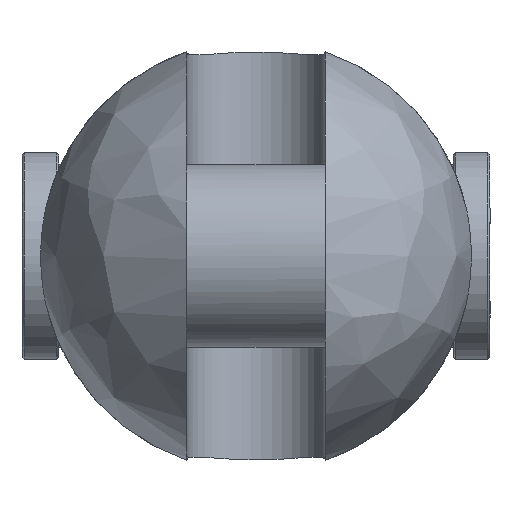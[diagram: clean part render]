
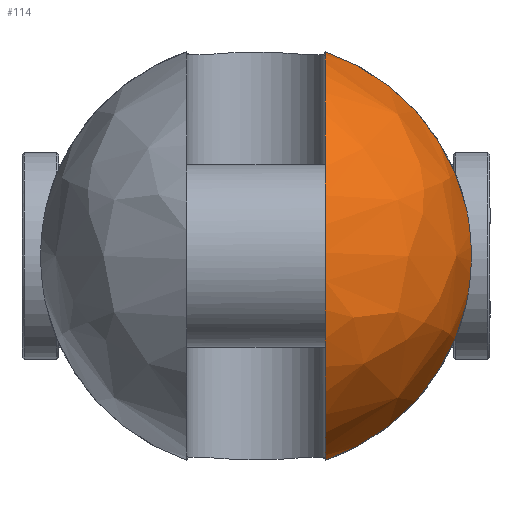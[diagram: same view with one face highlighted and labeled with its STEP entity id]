
A CAD part, left-side view. The second image highlights one B-rep face of the part: STEP entity #114.
In plain terms, the highlighted free-form (B-spline) face has degree [2, 2] with [9, 5] control points.
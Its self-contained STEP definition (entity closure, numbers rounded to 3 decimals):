
#114=ADVANCED_FACE('',(#202),#1535,.T.);
#202=FACE_OUTER_BOUND('',#302,.T.);
#302=EDGE_LOOP('',(#746,#747,#748,#749));
#746=ORIENTED_EDGE('',*,*,#1004,.T.);
#747=ORIENTED_EDGE('',*,*,#1001,.F.);
#748=ORIENTED_EDGE('',*,*,#1021,.T.);
#749=ORIENTED_EDGE('',*,*,#993,.F.);
#993=EDGE_CURVE('',#1425,#1426,#1256,.T.);
#1001=EDGE_CURVE('',#1433,#1434,#1257,.T.);
#1004=EDGE_CURVE('',#1425,#1434,#1259,.T.);
#1021=EDGE_CURVE('',#1433,#1426,#1130,.T.);
#1130=B_SPLINE_CURVE_WITH_KNOTS('',3,(#3652,#3653,#3654,#3655,#3656,#3657,
#3658,#3659,#3660,#3661,#3662,#3663,#3664,#3665),.UNSPECIFIED.,.F.,.F.,
(4,2,2,2,2,2,4),(0.,1.387,7.119,12.852,18.585,
24.317,25.704),.UNSPECIFIED.);
#1256=(
BOUNDED_CURVE()
B_SPLINE_CURVE(2,(#3502,#3503,#3504),.UNSPECIFIED.,.F.,.F.)
B_SPLINE_CURVE_WITH_KNOTS((3,3),(0.,53.587),.UNSPECIFIED.)
CURVE()
GEOMETRIC_REPRESENTATION_ITEM()
RATIONAL_B_SPLINE_CURVE((1.,0.875,1.))
REPRESENTATION_ITEM('')
);
#1257=(
BOUNDED_CURVE()
B_SPLINE_CURVE(2,(#3559,#3560,#3561),.UNSPECIFIED.,.F.,.F.)
B_SPLINE_CURVE_WITH_KNOTS((3,3),(0.,53.587),.UNSPECIFIED.)
CURVE()
GEOMETRIC_REPRESENTATION_ITEM()
RATIONAL_B_SPLINE_CURVE((1.,0.875,1.))
REPRESENTATION_ITEM('')
);
#1259=(
BOUNDED_CURVE()
B_SPLINE_CURVE(2,(#3567,#3568,#3569,#3570,#3571),.UNSPECIFIED.,.F.,.F.)
B_SPLINE_CURVE_WITH_KNOTS((3,2,3),(-157.707,-78.853,
0.),.UNSPECIFIED.)
CURVE()
GEOMETRIC_REPRESENTATION_ITEM()
RATIONAL_B_SPLINE_CURVE((1.,0.707,1.,0.707,1.))
REPRESENTATION_ITEM('')
);
#1425=VERTEX_POINT('',#3302);
#1426=VERTEX_POINT('',#3303);
#1433=VERTEX_POINT('',#3310);
#1434=VERTEX_POINT('',#3311);
#1535=(
BOUNDED_SURFACE()
B_SPLINE_SURFACE(2,2,((#3174,#3175,#3176,#3177,#3178),(#3179,#3180,#3181,
#3182,#3183),(#3184,#3185,#3186,#3187,#3188),(#3189,#3190,#3191,#3192,#3193),
(#3194,#3195,#3196,#3197,#3198),(#3199,#3200,#3201,#3202,#3203),(#3204,
#3205,#3206,#3207,#3208),(#3209,#3210,#3211,#3212,#3213),(#3214,#3215,#3216,
#3217,#3218)),.UNSPECIFIED.,.T.,.F.,.F.)
B_SPLINE_SURFACE_WITH_KNOTS((3,2,2,2,3),(3,2,3),(0.,83.252,166.504,
249.757,333.009),(0.,83.252,166.504),
 .UNSPECIFIED.)
GEOMETRIC_REPRESENTATION_ITEM()
RATIONAL_B_SPLINE_SURFACE(((1.,0.707,1.,0.707,1.),
(0.707,0.5,0.707,0.5,0.707),(1.,0.707,
1.,0.707,1.),(0.707,0.5,0.707,0.5,0.707),
(1.,0.707,1.,0.707,1.),(0.707,0.5,0.707,
0.5,0.707),(1.,0.707,1.,0.707,1.),(0.707,
0.5,0.707,0.5,0.707),(1.,0.707,1.,0.707,
1.)))
REPRESENTATION_ITEM('')
SURFACE()
);
#3174=CARTESIAN_POINT('',(-76.5,0.,0.));
#3175=CARTESIAN_POINT('',(-76.5,53.,0.));
#3176=CARTESIAN_POINT('',(-23.5,53.,0.));
#3177=CARTESIAN_POINT('',(29.5,53.,0.));
#3178=CARTESIAN_POINT('',(29.5,0.,0.));
#3179=CARTESIAN_POINT('',(-76.5,0.,0.));
#3180=CARTESIAN_POINT('',(-76.5,53.,53.));
#3181=CARTESIAN_POINT('',(-23.5,53.,53.));
#3182=CARTESIAN_POINT('',(29.5,53.,53.));
#3183=CARTESIAN_POINT('',(29.5,0.,0.));
#3184=CARTESIAN_POINT('',(-76.5,0.,0.));
#3185=CARTESIAN_POINT('',(-76.5,0.,53.));
#3186=CARTESIAN_POINT('',(-23.5,0.,53.));
#3187=CARTESIAN_POINT('',(29.5,0.,53.));
#3188=CARTESIAN_POINT('',(29.5,0.,0.));
#3189=CARTESIAN_POINT('',(-76.5,0.,0.));
#3190=CARTESIAN_POINT('',(-76.5,-53.,53.));
#3191=CARTESIAN_POINT('',(-23.5,-53.,53.));
#3192=CARTESIAN_POINT('',(29.5,-53.,53.));
#3193=CARTESIAN_POINT('',(29.5,0.,0.));
#3194=CARTESIAN_POINT('',(-76.5,0.,0.));
#3195=CARTESIAN_POINT('',(-76.5,-53.,0.));
#3196=CARTESIAN_POINT('',(-23.5,-53.,0.));
#3197=CARTESIAN_POINT('',(29.5,-53.,0.));
#3198=CARTESIAN_POINT('',(29.5,0.,0.));
#3199=CARTESIAN_POINT('',(-76.5,0.,0.));
#3200=CARTESIAN_POINT('',(-76.5,-53.,-53.));
#3201=CARTESIAN_POINT('',(-23.5,-53.,-53.));
#3202=CARTESIAN_POINT('',(29.5,-53.,-53.));
#3203=CARTESIAN_POINT('',(29.5,0.,0.));
#3204=CARTESIAN_POINT('',(-76.5,0.,0.));
#3205=CARTESIAN_POINT('',(-76.5,0.,-53.));
#3206=CARTESIAN_POINT('',(-23.5,0.,-53.));
#3207=CARTESIAN_POINT('',(29.5,0.,-53.));
#3208=CARTESIAN_POINT('',(29.5,0.,0.));
#3209=CARTESIAN_POINT('',(-76.5,0.,0.));
#3210=CARTESIAN_POINT('',(-76.5,53.,-53.));
#3211=CARTESIAN_POINT('',(-23.5,53.,-53.));
#3212=CARTESIAN_POINT('',(29.5,53.,-53.));
#3213=CARTESIAN_POINT('',(29.5,0.,0.));
#3214=CARTESIAN_POINT('',(-76.5,0.,0.));
#3215=CARTESIAN_POINT('',(-76.5,53.,0.));
#3216=CARTESIAN_POINT('',(-23.5,53.,0.));
#3217=CARTESIAN_POINT('',(29.5,53.,0.));
#3218=CARTESIAN_POINT('',(29.5,0.,0.));
#3302=CARTESIAN_POINT('',(-23.5,-17.,50.2));
#3303=CARTESIAN_POINT('',(-23.5,-51.565,12.247));
#3310=CARTESIAN_POINT('',(-23.5,-51.565,-12.247));
#3311=CARTESIAN_POINT('',(-23.5,-17.,-50.2));
#3502=CARTESIAN_POINT('',(-23.5,-17.,50.2));
#3503=CARTESIAN_POINT('',(-23.5,-44.786,40.79));
#3504=CARTESIAN_POINT('',(-23.5,-51.565,12.247));
#3559=CARTESIAN_POINT('',(-23.5,-51.565,-12.247));
#3560=CARTESIAN_POINT('',(-23.5,-44.786,-40.79));
#3561=CARTESIAN_POINT('',(-23.5,-17.,-50.2));
#3567=CARTESIAN_POINT('',(-23.5,-17.,50.2));
#3568=CARTESIAN_POINT('',(-73.7,-17.,50.2));
#3569=CARTESIAN_POINT('',(-73.7,-17.,0.));
#3570=CARTESIAN_POINT('',(-73.7,-17.,-50.2));
#3571=CARTESIAN_POINT('',(-23.5,-17.,-50.2));
#3652=CARTESIAN_POINT('',(-23.5,-51.565,-12.247));
#3653=CARTESIAN_POINT('',(-23.712,-51.662,-11.841));
#3654=CARTESIAN_POINT('',(-23.913,-51.754,-11.428));
#3655=CARTESIAN_POINT('',(-24.895,-52.198,-9.281));
#3656=CARTESIAN_POINT('',(-25.502,-52.47,-7.451));
#3657=CARTESIAN_POINT('',(-26.305,-52.829,-3.732));
#3658=CARTESIAN_POINT('',(-26.5,-52.915,-1.842));
#3659=CARTESIAN_POINT('',(-26.5,-52.915,1.842));
#3660=CARTESIAN_POINT('',(-26.305,-52.829,3.732));
#3661=CARTESIAN_POINT('',(-25.502,-52.47,7.451));
#3662=CARTESIAN_POINT('',(-24.895,-52.198,9.281));
#3663=CARTESIAN_POINT('',(-23.913,-51.754,11.428));
#3664=CARTESIAN_POINT('',(-23.712,-51.662,11.841));
#3665=CARTESIAN_POINT('',(-23.5,-51.565,12.247));
